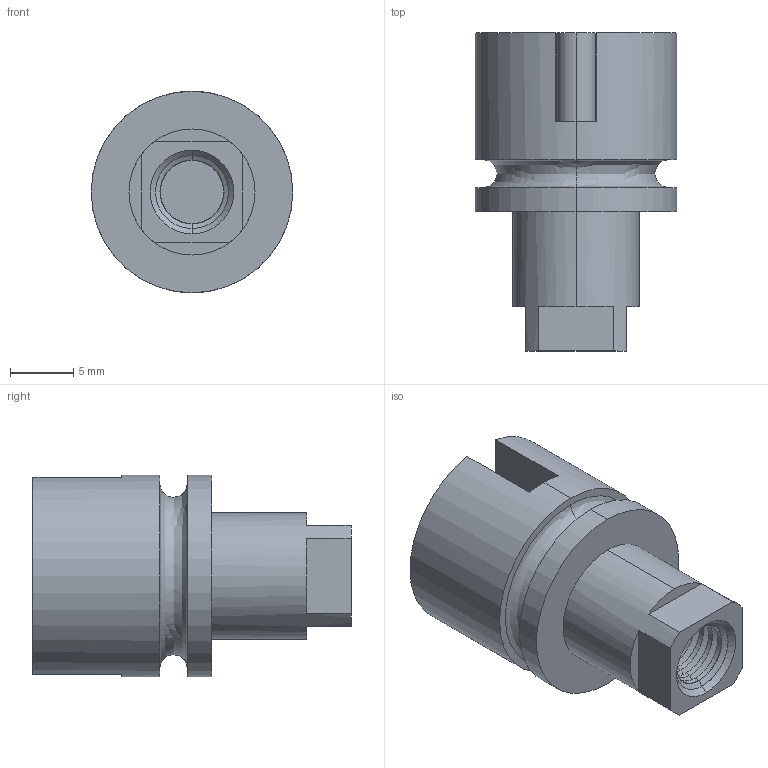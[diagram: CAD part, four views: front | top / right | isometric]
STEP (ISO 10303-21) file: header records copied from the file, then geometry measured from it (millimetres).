
FILE_DESCRIPTION (( 'STEP AP214' ), '1' );
FILE_NAME ('LI503_V1.STEP', '2016-06-03T07:34:34', ( '' ), ( '' ), 'SwSTEP 2.0', 'SolidWorks 2014', '' );
FILE_SCHEMA (( 'AUTOMOTIVE_DESIGN' ));
Length unit declared in the file: millimetre
Products named in the file (2): LI503_V1
Bounding box: 15.9 x 25.1 x 15.9 mm (x, y, z)
Volume: 2592.5 mm3; surface area: 2106.8 mm2
Topology: 1 solids, 1 shells, 103 faces, 228 edges, 132 vertices
Faces by surface type: cone 48, cylinder 32, plane 21, bspline 2
Entity records: 3061 total; most frequent: CARTESIAN_POINT 679, DIRECTION 544, ORIENTED_EDGE 456, EDGE_CURVE 228, AXIS2_PLACEMENT_3D 217, VERTEX_POINT 132, CIRCLE 114, VECTOR 110
